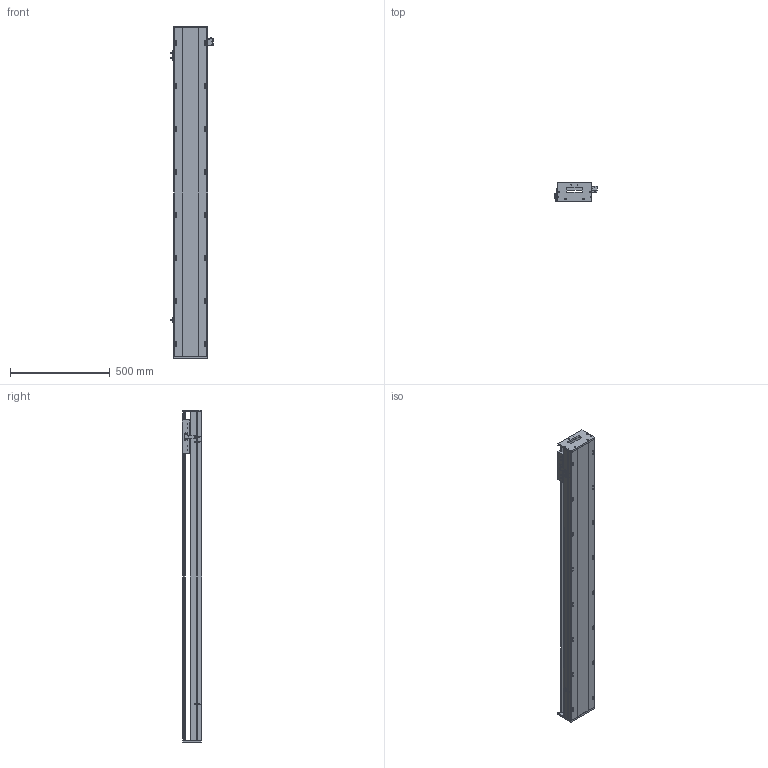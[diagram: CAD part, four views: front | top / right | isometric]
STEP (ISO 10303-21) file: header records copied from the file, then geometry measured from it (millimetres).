
FILE_DESCRIPTION (( 'STEP AP203' ), '1' );
FILE_NAME ('SKR17S-C1-S1398（简）.STEP', '2022-09-29T05:48:52', ( '' ), ( '' ), 'SwSTEP 2.0', 'SolidWorks 2018', '' );
FILE_SCHEMA (( 'CONFIG_CONTROL_DESIGN' ));
Length unit declared in the file: millimetre
Products named in the file (8): EE-SX672; SKR17耜啣; 棠掑假蚾輸; SKR17滑台-170L（简）; 感应片（SKR12S-14S-17S）; SIKO棠掑; SKR17菁釱-C1-S1398(潠); SKR17S-C1-S1398（简）
Assembly tree (10 placements, depth 2):
  SKR17S-C1-S1398（简）
    SKR17菁釱-C1-S1398(潠)
    SKR17滑台-170L（简）
    SIKO棠掑
    EE-SX672  x3
    SKR17耜啣  x2
    棠掑假蚾輸
    感应片（SKR12S-14S-17S）
Bounding box: 212.7 x 97 x 1668 mm (x, y, z)
Volume: 12956419.4 mm3; surface area: 1599324.3 mm2
Topology: 11 solids, 11 shells, 1185 faces, 3284 edges, 2113 vertices
Faces by surface type: cylinder 566, plane 495, cone 124
Entity records: 36230 total; most frequent: CARTESIAN_POINT 9593, ORIENTED_EDGE 5580, DIRECTION 5168, EDGE_CURVE 2790, AXIS2_PLACEMENT_3D 1840, VERTEX_POINT 1817, VECTOR 1488, LINE 1488
